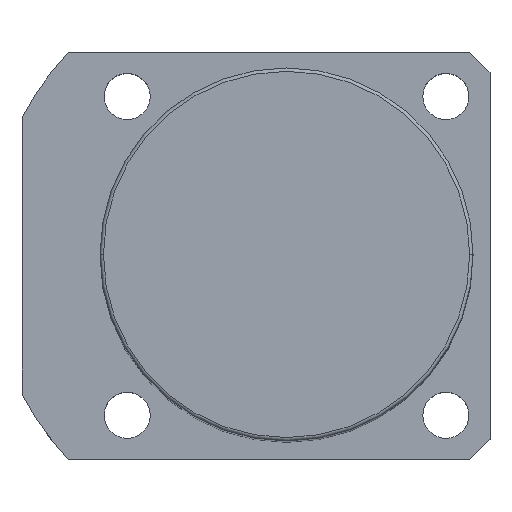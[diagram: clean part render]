
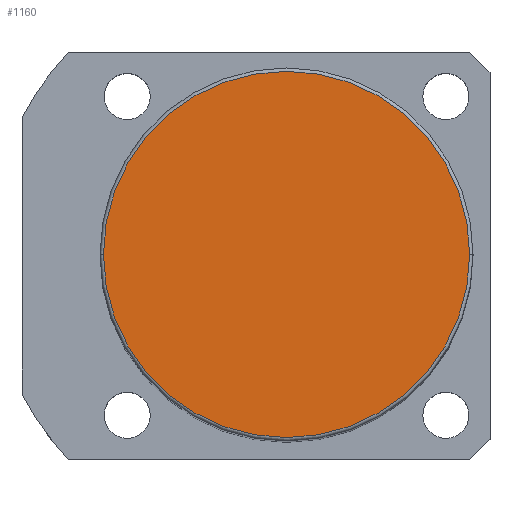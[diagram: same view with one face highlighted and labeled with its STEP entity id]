
A CAD part, top view. The second image highlights one B-rep face of the part: STEP entity #1160.
In plain terms, the highlighted planar face has unit normal (0, 0, 1).
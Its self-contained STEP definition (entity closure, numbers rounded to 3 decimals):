
#98 = DIRECTION ( 'NONE',  ( 1., 0., 0. ) ) ;
#253 = CARTESIAN_POINT ( 'NONE',  ( -27., 0., 131. ) ) ;
#384 = AXIS2_PLACEMENT_3D ( 'NONE', #1919, #571, #98 ) ;
#387 = EDGE_LOOP ( 'NONE', ( #886, #911 ) ) ;
#477 = EDGE_CURVE ( 'NONE', #1049, #1759, #1542, .T. ) ;
#542 = CARTESIAN_POINT ( 'NONE',  ( 0., 0., 131. ) ) ;
#571 = DIRECTION ( 'NONE',  ( 0., 0., 1. ) ) ;
#659 = CARTESIAN_POINT ( 'NONE',  ( 0., 0., 131. ) ) ;
#703 = AXIS2_PLACEMENT_3D ( 'NONE', #542, #1584, #1720 ) ;
#879 = FACE_OUTER_BOUND ( 'NONE', #387, .T. ) ;
#886 = ORIENTED_EDGE ( 'NONE', *, *, #477, .T. ) ;
#911 = ORIENTED_EDGE ( 'NONE', *, *, #1896, .T. ) ;
#1049 = VERTEX_POINT ( 'NONE', #1176 ) ;
#1160 = ADVANCED_FACE ( 'NONE', ( #879 ), #1555, .T. ) ;
#1176 = CARTESIAN_POINT ( 'NONE',  ( 27., 0., 131. ) ) ;
#1389 = AXIS2_PLACEMENT_3D ( 'NONE', #659, #1717, #1699 ) ;
#1542 = CIRCLE ( 'NONE', #1389, 27. ) ;
#1555 = PLANE ( 'NONE',  #703 ) ;
#1584 = DIRECTION ( 'NONE',  ( 0., 0., 1. ) ) ;
#1699 = DIRECTION ( 'NONE',  ( 1., 0., 0. ) ) ;
#1717 = DIRECTION ( 'NONE',  ( 0., 0., 1. ) ) ;
#1720 = DIRECTION ( 'NONE',  ( 1., 0., 0. ) ) ;
#1759 = VERTEX_POINT ( 'NONE', #253 ) ;
#1874 = CIRCLE ( 'NONE', #384, 27. ) ;
#1896 = EDGE_CURVE ( 'NONE', #1759, #1049, #1874, .T. ) ;
#1919 = CARTESIAN_POINT ( 'NONE',  ( 0., 0., 131. ) ) ;
